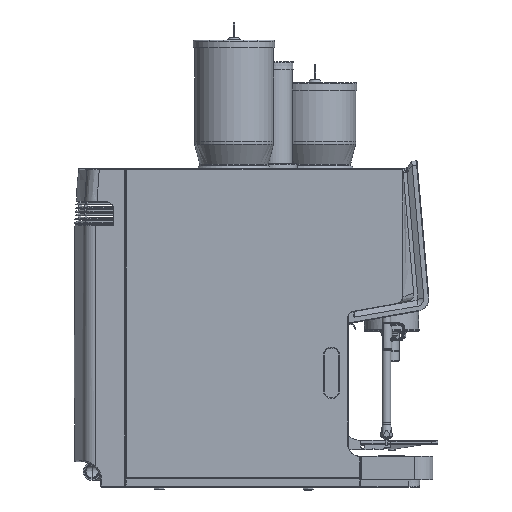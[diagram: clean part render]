
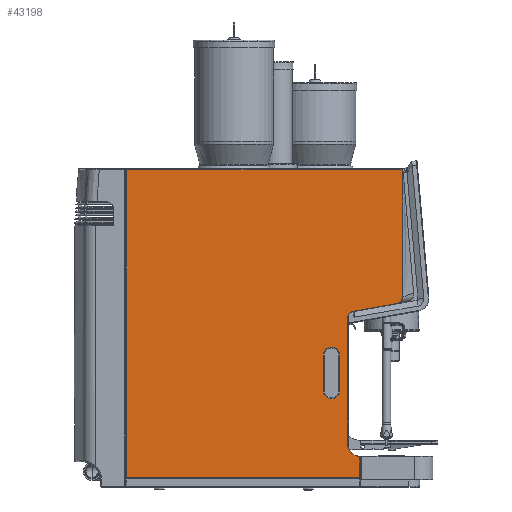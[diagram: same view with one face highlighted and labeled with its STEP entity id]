
A CAD part, left-side view. The second image highlights one B-rep face of the part: STEP entity #43198.
In plain terms, the highlighted planar face has unit normal (-1, 0, 0).
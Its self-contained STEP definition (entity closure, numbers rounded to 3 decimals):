
#591=FACE_BOUND('',#12109,.T.);
#1236=PLANE('',#46132);
#2925=LINE('',#64725,#5812);
#2927=LINE('',#64751,#5814);
#2929=LINE('',#64763,#5816);
#2932=LINE('',#64928,#5819);
#2934=LINE('',#64939,#5821);
#2935=LINE('',#64940,#5822);
#2936=LINE('',#64945,#5823);
#2937=LINE('',#64948,#5824);
#5812=VECTOR('',#51426,34.024);
#5814=VECTOR('',#51446,207.852);
#5816=VECTOR('',#51460,73.255);
#5819=VECTOR('',#51473,383.437);
#5821=VECTOR('',#51479,453.44);
#5822=VECTOR('',#51480,506.);
#5823=VECTOR('',#51483,58.);
#5824=VECTOR('',#51486,58.);
#9349=FACE_OUTER_BOUND('',#12108,.T.);
#12108=EDGE_LOOP('',(#30150,#30151,#30152,#30153,#30154,#30155,#30156,#30157,
#30158,#30159,#30160));
#12109=EDGE_LOOP('',(#30161,#30162,#30163,#30164));
#15507=CIRCLE('',#46112,0.5);
#15510=CIRCLE('',#46116,20.5);
#15514=CIRCLE('',#46122,10.6);
#15520=CIRCLE('',#46133,13.5);
#15521=CIRCLE('',#46134,13.5);
#17473=B_SPLINE_CURVE_WITH_KNOTS('',3,(#64798,#64799,#64800,#64801,#64802,
#64803),.UNSPECIFIED.,.F.,.F.,(4,1,1,4),(-1.586,-1.133,
-0.68,0.),.UNSPECIFIED.);
#17475=B_SPLINE_CURVE_WITH_KNOTS('',3,(#64838,#64839,#64840,#64841,#64842),
 .UNSPECIFIED.,.F.,.F.,(4,1,4),(-20.877,-8.947,0.),
 .UNSPECIFIED.);
#18955=VERTEX_POINT('',#64714);
#18959=VERTEX_POINT('',#64723);
#18961=VERTEX_POINT('',#64737);
#18963=VERTEX_POINT('',#64743);
#18965=VERTEX_POINT('',#64749);
#18967=VERTEX_POINT('',#64755);
#18969=VERTEX_POINT('',#64761);
#18971=VERTEX_POINT('',#64796);
#18973=VERTEX_POINT('',#64836);
#18977=VERTEX_POINT('',#64927);
#18980=VERTEX_POINT('',#64938);
#18981=VERTEX_POINT('',#64941);
#18982=VERTEX_POINT('',#64942);
#18983=VERTEX_POINT('',#64944);
#18984=VERTEX_POINT('',#64946);
#23312=EDGE_CURVE('',#18959,#18955,#2925,.T.);
#23315=EDGE_CURVE('',#18961,#18959,#15507,.T.);
#23318=EDGE_CURVE('',#18963,#18961,#15510,.T.);
#23321=EDGE_CURVE('',#18965,#18963,#2927,.T.);
#23324=EDGE_CURVE('',#18967,#18965,#15514,.T.);
#23327=EDGE_CURVE('',#18969,#18967,#2929,.T.);
#23330=EDGE_CURVE('',#18971,#18969,#17473,.T.);
#23333=EDGE_CURVE('',#18973,#18971,#17475,.T.);
#23342=EDGE_CURVE('',#18955,#18977,#2932,.T.);
#23346=EDGE_CURVE('',#18980,#18973,#2934,.T.);
#23347=EDGE_CURVE('',#18977,#18980,#2935,.T.);
#23348=EDGE_CURVE('',#18981,#18982,#15520,.T.);
#23349=EDGE_CURVE('',#18983,#18981,#2936,.T.);
#23350=EDGE_CURVE('',#18984,#18983,#15521,.T.);
#23351=EDGE_CURVE('',#18982,#18984,#2937,.T.);
#30150=ORIENTED_EDGE('',*,*,#23312,.F.);
#30151=ORIENTED_EDGE('',*,*,#23315,.F.);
#30152=ORIENTED_EDGE('',*,*,#23318,.F.);
#30153=ORIENTED_EDGE('',*,*,#23321,.F.);
#30154=ORIENTED_EDGE('',*,*,#23324,.F.);
#30155=ORIENTED_EDGE('',*,*,#23327,.F.);
#30156=ORIENTED_EDGE('',*,*,#23330,.F.);
#30157=ORIENTED_EDGE('',*,*,#23333,.F.);
#30158=ORIENTED_EDGE('',*,*,#23346,.F.);
#30159=ORIENTED_EDGE('',*,*,#23347,.F.);
#30160=ORIENTED_EDGE('',*,*,#23342,.F.);
#30161=ORIENTED_EDGE('',*,*,#23348,.F.);
#30162=ORIENTED_EDGE('',*,*,#23349,.F.);
#30163=ORIENTED_EDGE('',*,*,#23350,.F.);
#30164=ORIENTED_EDGE('',*,*,#23351,.F.);
#43198=ADVANCED_FACE('',(#9349,#591),#1236,.F.);
#46112=AXIS2_PLACEMENT_3D('',#64739,#51430,#51431);
#46116=AXIS2_PLACEMENT_3D('',#64745,#51438,#51439);
#46122=AXIS2_PLACEMENT_3D('',#64757,#51452,#51453);
#46132=AXIS2_PLACEMENT_3D('',#64937,#51477,#51478);
#46133=AXIS2_PLACEMENT_3D('',#64943,#51481,#51482);
#46134=AXIS2_PLACEMENT_3D('',#64947,#51484,#51485);
#51426=DIRECTION('',(0.,0.,-1.));
#51430=DIRECTION('center_axis',(1.,0.,0.));
#51431=DIRECTION('ref_axis',(0.,-0.724,0.69));
#51438=DIRECTION('center_axis',(-1.,0.,0.));
#51439=DIRECTION('ref_axis',(0.,0.724,-0.69));
#51446=DIRECTION('',(0.,0.,-1.));
#51452=DIRECTION('center_axis',(-1.,0.,0.));
#51453=DIRECTION('ref_axis',(0.,0.766,0.643));
#51460=DIRECTION('',(0.,0.985,-0.174));
#51473=DIRECTION('',(0.,1.,0.));
#51477=DIRECTION('center_axis',(1.,0.,0.));
#51478=DIRECTION('ref_axis',(0.,0.,-1.));
#51479=DIRECTION('',(0.,-1.,0.));
#51480=DIRECTION('',(0.,0.,1.));
#51481=DIRECTION('center_axis',(-1.,0.,0.));
#51482=DIRECTION('ref_axis',(0.,0.,-1.));
#51483=DIRECTION('',(0.,0.,-1.));
#51484=DIRECTION('center_axis',(-1.,0.,0.));
#51485=DIRECTION('ref_axis',(0.,0.,1.));
#51486=DIRECTION('',(0.,0.,1.));
#64714=CARTESIAN_POINT('',(-195.,120.1,20.5));
#64723=CARTESIAN_POINT('',(-195.,120.1,54.524));
#64725=CARTESIAN_POINT('',(-195.,120.1,157.1));
#64737=CARTESIAN_POINT('',(-195.,120.576,55.023));
#64739=CARTESIAN_POINT('Origin',(-195.,120.6,54.524));
#64743=CARTESIAN_POINT('',(-195.,140.1,75.5));
#64745=CARTESIAN_POINT('Origin',(-195.,119.6,75.5));
#64749=CARTESIAN_POINT('',(-195.,140.1,283.352));
#64751=CARTESIAN_POINT('',(-195.,140.1,266.124));
#64755=CARTESIAN_POINT('',(-195.,131.341,293.791));
#64757=CARTESIAN_POINT('Origin',(-195.,129.5,283.352));
#64761=CARTESIAN_POINT('',(-195.,59.199,306.511));
#64763=CARTESIAN_POINT('',(-195.,165.46,287.774));
#64796=CARTESIAN_POINT('',(-195.,49.86,317.731));
#64798=CARTESIAN_POINT('Ctrl Pts',(-195.,49.86,317.731));
#64799=CARTESIAN_POINT('Ctrl Pts',(-195.,49.858,316.221));
#64800=CARTESIAN_POINT('Ctrl Pts',(-195.,50.46,313.204));
#64801=CARTESIAN_POINT('Ctrl Pts',(-195.,53.467,308.725));
#64802=CARTESIAN_POINT('Ctrl Pts',(-195.,56.968,306.905));
#64803=CARTESIAN_POINT('Ctrl Pts',(-195.,59.199,306.511));
#64836=CARTESIAN_POINT('',(-195.,50.097,526.5));
#64838=CARTESIAN_POINT('Ctrl Pts',(-195.,50.097,526.5));
#64839=CARTESIAN_POINT('Ctrl Pts',(-195.,50.031,486.734));
#64840=CARTESIAN_POINT('Ctrl Pts',(-195.,49.937,417.145));
#64841=CARTESIAN_POINT('Ctrl Pts',(-195.,49.886,347.555));
#64842=CARTESIAN_POINT('Ctrl Pts',(-195.,49.86,317.731));
#64927=CARTESIAN_POINT('',(-195.,503.537,20.5));
#64928=CARTESIAN_POINT('',(-195.,203.041,20.5));
#64937=CARTESIAN_POINT('Origin',(-195.,286.481,258.7));
#64938=CARTESIAN_POINT('',(-195.,503.537,526.5));
#64939=CARTESIAN_POINT('',(-195.,438.241,526.5));
#64940=CARTESIAN_POINT('',(-195.,503.537,528.5));
#64941=CARTESIAN_POINT('',(-195.,180.1,163.5));
#64942=CARTESIAN_POINT('',(-195.,153.1,163.5));
#64943=CARTESIAN_POINT('Origin',(-195.,166.6,163.5));
#64944=CARTESIAN_POINT('',(-195.,180.1,221.5));
#64945=CARTESIAN_POINT('',(-195.,180.1,211.1));
#64946=CARTESIAN_POINT('',(-195.,153.1,221.5));
#64947=CARTESIAN_POINT('Origin',(-195.,166.6,221.5));
#64948=CARTESIAN_POINT('',(-195.,153.1,240.1));
